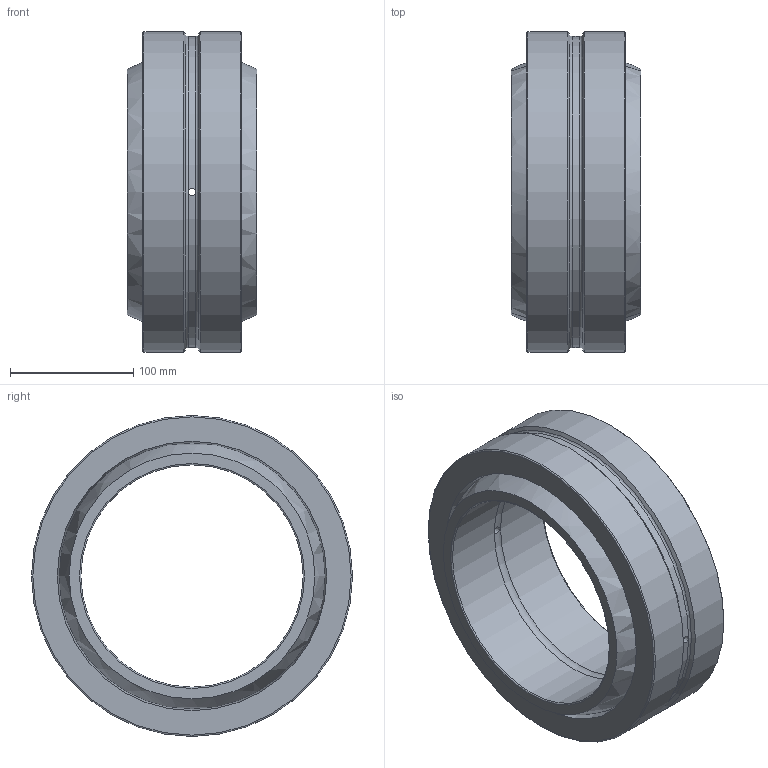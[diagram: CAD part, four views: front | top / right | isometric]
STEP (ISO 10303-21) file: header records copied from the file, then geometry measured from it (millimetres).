
FILE_DESCRIPTION(/* description */ (''),/* implementation_level */ '2;1');
FILE_NAME(/* name */ 'D:\moje\parametrické\GE--\GE--_\GE180E.stp',/* time_stamp */ '2016-08-17T14:02:54+02:00',/* author */ ('OUBALASKO'),/* organization */ (''),/* preprocessor_version */ 'ST-DEVELOPER v15.6',/* originating_system */ 'Autodesk Inventor 2015',/* authorisation */ '');
FILE_SCHEMA (('AUTOMOTIVE_DESIGN { 1 0 10303 214 3 1 1 }'));
Length unit declared in the file: millimetre
Products named in the file (3): GE180E-02; GE180E-01; GE180E
Assembly tree (2 placements, depth 2):
  GE180E
    GE180E-02
    GE180E-01
Bounding box: 105 x 260 x 260 mm (x, y, z)
Volume: 2339113.7 mm3; surface area: 301378 mm2
Topology: 2 solids, 2 shells, 28 faces, 66 edges, 41 vertices
Faces by surface type: torus 10, cylinder 9, plane 4, sphere 3, cone 2
Full cylindrical faces by diameter (mm): 6 x4, 180 x2, 252 x1, 260 x2
Entity records: 889 total; most frequent: CARTESIAN_POINT 311, DIRECTION 118, EDGE_LOOP 64, ORIENTED_EDGE 64, AXIS2_PLACEMENT_3D 59, FACE_BOUND 37, VERTEX_POINT 32, EDGE_CURVE 32
